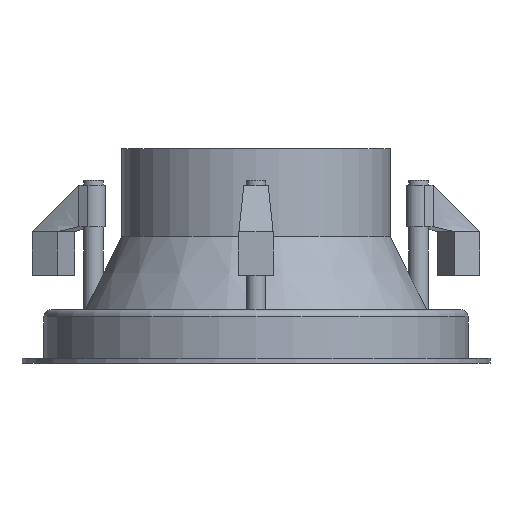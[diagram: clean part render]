
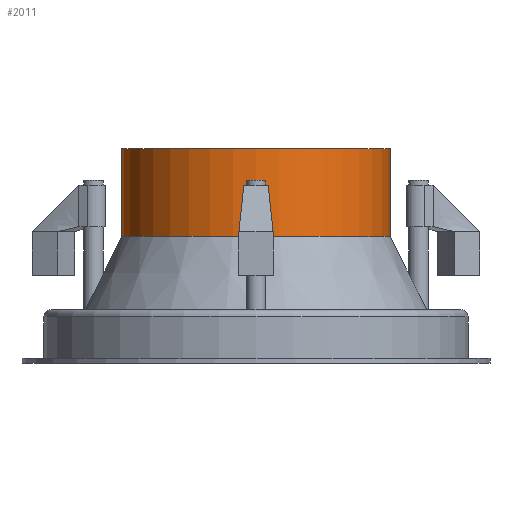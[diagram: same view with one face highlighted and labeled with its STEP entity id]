
A CAD part, front view. The second image highlights one B-rep face of the part: STEP entity #2011.
In plain terms, the highlighted cylindrical face has radius 55 mm (diameter 110 mm), a full revolution.
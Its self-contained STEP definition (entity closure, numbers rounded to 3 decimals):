
#366=FACE_OUTER_BOUND('',#495,.T.);
#495=EDGE_LOOP('',(#1839,#1840,#1841,#1842,#1843));
#665=LINE('',#3518,#828);
#828=VECTOR('',#2812,55.);
#916=CIRCLE('',#2236,55.);
#917=CIRCLE('',#2237,55.);
#918=CIRCLE('',#2239,55.);
#1069=VERTEX_POINT('',#3510);
#1070=VERTEX_POINT('',#3512);
#1071=VERTEX_POINT('',#3516);
#1327=EDGE_CURVE('',#1069,#1070,#916,.T.);
#1328=EDGE_CURVE('',#1070,#1069,#917,.T.);
#1329=EDGE_CURVE('',#1071,#1071,#918,.T.);
#1330=EDGE_CURVE('',#1071,#1070,#665,.T.);
#1839=ORIENTED_EDGE('',*,*,#1329,.F.);
#1840=ORIENTED_EDGE('',*,*,#1330,.T.);
#1841=ORIENTED_EDGE('',*,*,#1327,.F.);
#1842=ORIENTED_EDGE('',*,*,#1328,.F.);
#1843=ORIENTED_EDGE('',*,*,#1330,.F.);
#1894=CYLINDRICAL_SURFACE('',#2238,55.);
#2011=ADVANCED_FACE('',(#366),#1894,.T.);
#2236=AXIS2_PLACEMENT_3D('',#3513,#2804,#2805);
#2237=AXIS2_PLACEMENT_3D('',#3514,#2806,#2807);
#2238=AXIS2_PLACEMENT_3D('',#3515,#2808,#2809);
#2239=AXIS2_PLACEMENT_3D('',#3517,#2810,#2811);
#2804=DIRECTION('center_axis',(0.,0.,-1.));
#2805=DIRECTION('ref_axis',(-1.,0.,0.));
#2806=DIRECTION('center_axis',(0.,0.,-1.));
#2807=DIRECTION('ref_axis',(-1.,0.,0.));
#2808=DIRECTION('center_axis',(0.,0.,1.));
#2809=DIRECTION('ref_axis',(1.,0.,0.));
#2810=DIRECTION('center_axis',(0.,0.,1.));
#2811=DIRECTION('ref_axis',(1.,0.,0.));
#2812=DIRECTION('',(0.,0.,-1.));
#3510=CARTESIAN_POINT('',(55.,0.,52.));
#3512=CARTESIAN_POINT('',(-55.,0.,52.));
#3513=CARTESIAN_POINT('Origin',(0.,0.,52.));
#3514=CARTESIAN_POINT('Origin',(0.,0.,52.));
#3515=CARTESIAN_POINT('Origin',(0.,0.,22.));
#3516=CARTESIAN_POINT('',(-55.,0.,88.));
#3517=CARTESIAN_POINT('Origin',(0.,0.,88.));
#3518=CARTESIAN_POINT('',(-55.,0.,22.));
